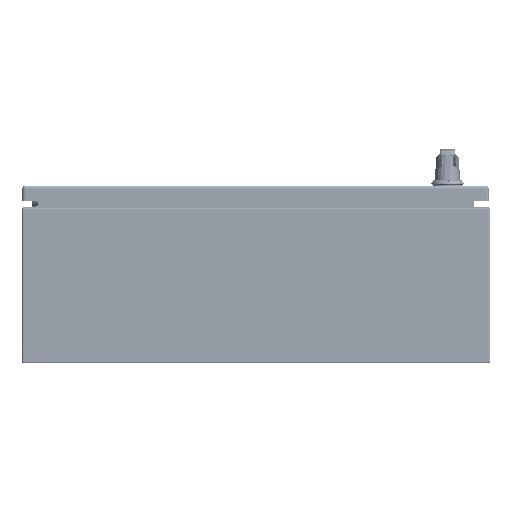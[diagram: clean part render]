
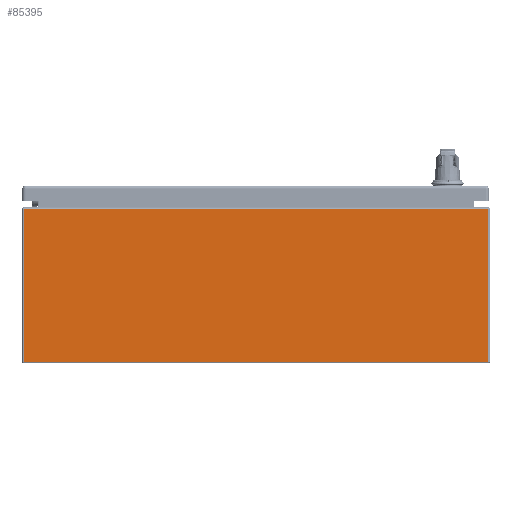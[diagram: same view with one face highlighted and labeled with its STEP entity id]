
A CAD part, front view. The second image highlights one B-rep face of the part: STEP entity #85395.
In plain terms, the highlighted planar face has unit normal (0, -1, 0).
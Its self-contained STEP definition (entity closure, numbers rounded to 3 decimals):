
#7744=LINE('',#121429,#13106);
#7751=LINE('',#121444,#13113);
#7753=LINE('',#121451,#13115);
#7755=LINE('',#121460,#13117);
#13106=VECTOR('',#99926,0.394);
#13113=VECTOR('',#99939,0.394);
#13115=VECTOR('',#99947,0.394);
#13117=VECTOR('',#99959,0.394);
#19917=FACE_OUTER_BOUND('',#25206,.T.);
#25206=EDGE_LOOP('',(#57070,#57071,#57072,#57073));
#34719=VERTEX_POINT('',#121399);
#34726=VERTEX_POINT('',#121425);
#34731=VERTEX_POINT('',#121443);
#34733=VERTEX_POINT('',#121449);
#43363=EDGE_CURVE('',#34719,#34726,#7744,.T.);
#43370=EDGE_CURVE('',#34726,#34731,#7751,.T.);
#43374=EDGE_CURVE('',#34733,#34719,#7753,.T.);
#43379=EDGE_CURVE('',#34733,#34731,#7755,.T.);
#57070=ORIENTED_EDGE('',*,*,#43363,.F.);
#57071=ORIENTED_EDGE('',*,*,#43374,.F.);
#57072=ORIENTED_EDGE('',*,*,#43379,.T.);
#57073=ORIENTED_EDGE('',*,*,#43370,.F.);
#83733=PLANE('',#91712);
#85395=ADVANCED_FACE('',(#19917),#83733,.F.);
#91712=AXIS2_PLACEMENT_3D('',#121471,#99973,#99974);
#99926=DIRECTION('',(1.,0.,0.));
#99939=DIRECTION('',(0.,0.,-1.));
#99947=DIRECTION('',(0.,0.,1.));
#99959=DIRECTION('',(1.,0.,0.));
#99973=DIRECTION('center_axis',(0.,1.,0.));
#99974=DIRECTION('ref_axis',(0.,0.,1.));
#121399=CARTESIAN_POINT('',(-11.916,-24.,7.916));
#121425=CARTESIAN_POINT('',(11.916,-24.,7.916));
#121429=CARTESIAN_POINT('',(5.979,-24.,7.916));
#121443=CARTESIAN_POINT('',(11.916,-24.,0.084));
#121444=CARTESIAN_POINT('',(11.916,-24.,4.));
#121449=CARTESIAN_POINT('',(-11.916,-24.,0.084));
#121451=CARTESIAN_POINT('',(-11.916,-24.,4.));
#121460=CARTESIAN_POINT('',(-5.958,-24.,0.084));
#121471=CARTESIAN_POINT('Origin',(0.,-24.,4.));
